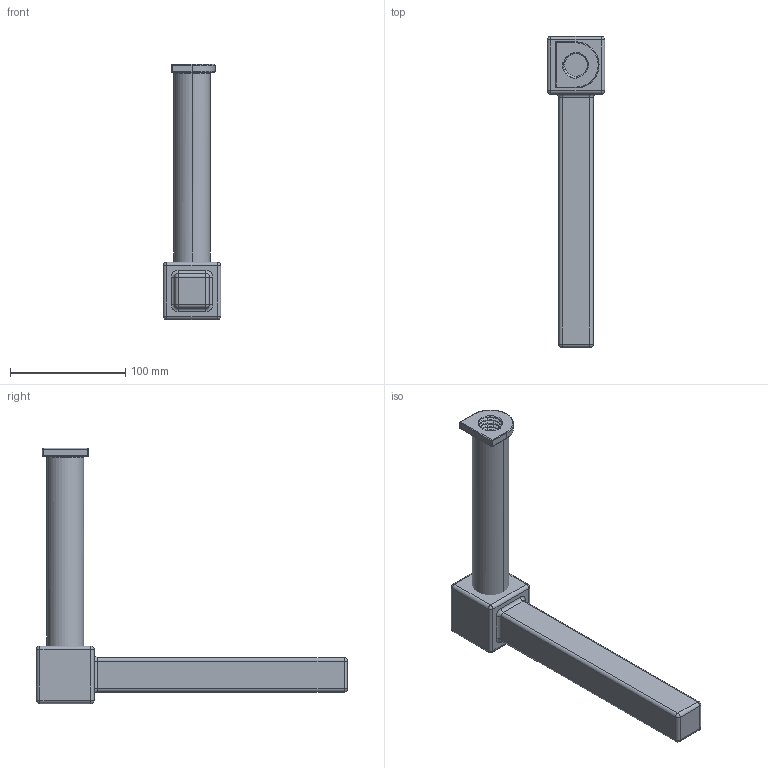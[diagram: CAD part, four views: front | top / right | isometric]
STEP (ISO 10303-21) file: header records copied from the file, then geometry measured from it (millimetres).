
FILE_DESCRIPTION(('CATIA V5 STEP Exchange'),'2;1');
FILE_NAME('C:\Users\Administrator\Desktop\Gripper\fix\Assy-Gripper-Move.stp','2024-10-01T08:37:08+00:00',('none'),('none'),'CATIA Unofficial Packaging Version','3DEXPERIENCE Platform STEP AP203 v1','none');
FILE_SCHEMA(('CONFIG_CONTROL_DESIGN'));
Length unit declared in the file: millimetre
Products named in the file (2): Assy-Gripper; All Assembly
Assembly tree (3 placements, depth 3):
  Assy-Gripper
    All Assembly
      #65
    #52441
Bounding box: 50 x 270 x 221.61 mm (x, y, z)
Volume: 418876 mm3; surface area: 82094 mm2
Topology: 2 solids, 2 shells, 1969 faces, 4463 edges, 2479 vertices
Faces by surface type: bspline 1750, cylinder 144, torus 29, plane 26, sphere 20
Entity records: 47857 total; most frequent: CARTESIAN_POINT 24492, ORIENTED_EDGE 8886, EDGE_CURVE 4443, VERTEX_POINT 2479, EDGE_LOOP 1972, ADVANCED_FACE 1969, FACE_OUTER_BOUND 1969, DIRECTION 587
